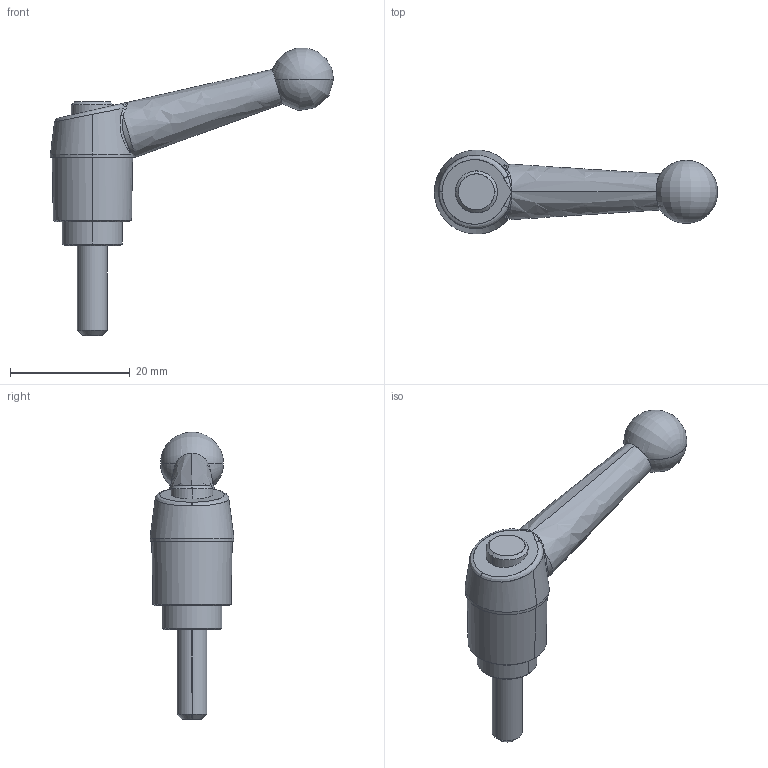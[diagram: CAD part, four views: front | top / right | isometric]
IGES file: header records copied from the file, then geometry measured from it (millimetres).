
Start section: SolidWorks IGES file using analytic representation for surfaces
Global section: file name: X:\11_SW2020-Inv2020\00_全2021-11新製品まで\k\KR5X15-SUS\kr5x15-sus.IGS; native system: SolidWorks 2020; preprocessor: SolidWorks 2020; author: ImaoCorp; date: 211026.103926; units: millimetre
Bounding box: 47.2 x 14 x 47.94 mm (x, y, z)
Surface area: 2267.1 mm2 (no closed solid volume)
Topology: 0 solids, 0 shells, 45 faces, 704 edges, 699 vertices
Faces by surface type: revolution 27, bspline 18
